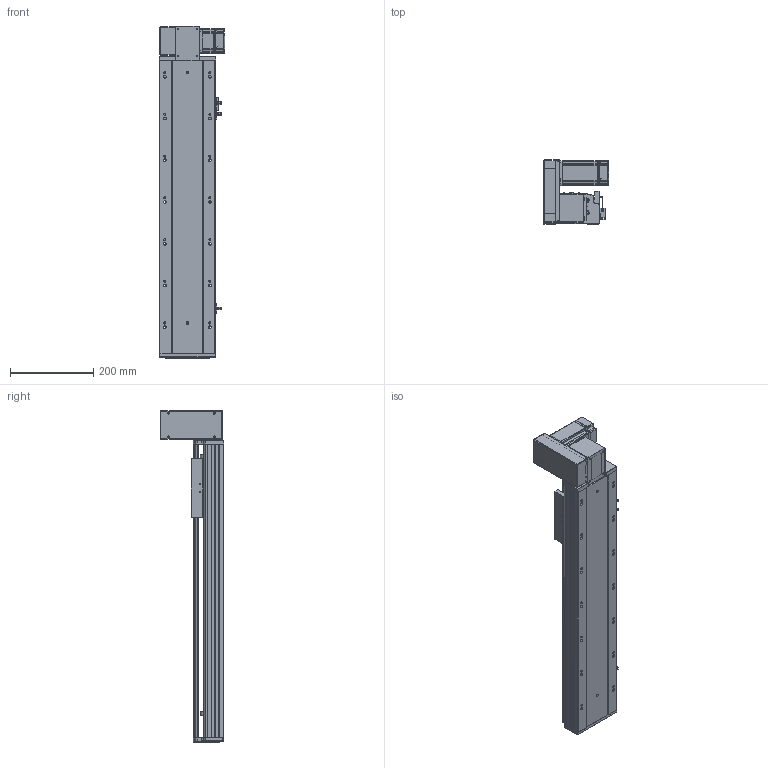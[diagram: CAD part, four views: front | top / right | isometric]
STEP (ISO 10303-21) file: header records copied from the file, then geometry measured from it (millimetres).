
FILE_DESCRIPTION (( 'STEP AP203' ), '1' );
FILE_NAME ('RY140-T-300-UL.SLDASM_450.step', '2021-03-01T07:43:03', ( '盈信电脑' ), ( '东莞市道滘镇水果街19号' ), 'SwSTEP 2.0', 'SolidWorks 2012', '' );
FILE_SCHEMA (( 'CONFIG_CONTROL_DESIGN' ));
Length unit declared in the file: millimetre
Products named in the file (18): RY140-T-300-UL.SLDASM_450; RY140-T翋肮謫裔啣; 滅袉蝶18-10; RY120-T蹟翐M4; RY140-T萇儂欶; RY120-T主同步轮轴承压盖; 侂狟400W侜督萇儂; RY140-T翋肮祭謫盓傅釱; 15; RY140-T萇儂假蚾啣; RY120外置感应片(140共用）; RY120-T肮祭湍揤踡輸2; RY120-T肮祭湍揤踡輸1; 覜茼ん672; RY140綴裔啣; RY140肮祭謫臏賑輸; RY140-T-300-DL倰第菁釱_450; RY140-T-300-DL倰第奻裔啣_450
Assembly tree (23 placements, depth 3):
  RY140-T-300-UL.SLDASM_450
    RY140-T-300-DL倰第菁釱_450
    RY140肮祭謫臏賑輸
    RY140-T-300-DL倰第奻裔啣_450
    RY140綴裔啣
    覜茼ん672  x3
    RY120外置感应片(140共用）
    RY120-T肮祭湍揤踡輸2
    RY120-T肮祭湍揤踡輸1
    RY140-T翋肮祭謫盓傅釱
    RY140-T萇儂假蚾啣
    侂狟400W侜督萇儂
      15
    RY120-T主同步轮轴承压盖
    RY120-T蹟翐M4  x4
    RY140-T萇儂欶
    滅袉蝶18-10  x2
    RY140-T翋肮謫裔啣
Bounding box: 157 x 152.5 x 796 mm (x, y, z)
Volume: 2678483.2 mm3; surface area: 987666 mm2
Topology: 22 solids, 22 shells, 2591 faces, 7097 edges, 4578 vertices
Faces by surface type: plane 1381, cylinder 928, cone 182, bspline 100
Entity records: 82191 total; most frequent: CARTESIAN_POINT 20171, ORIENTED_EDGE 12754, DIRECTION 12057, EDGE_CURVE 6377, VERTEX_POINT 4177, VECTOR 4121, LINE 4121, AXIS2_PLACEMENT_3D 3968
